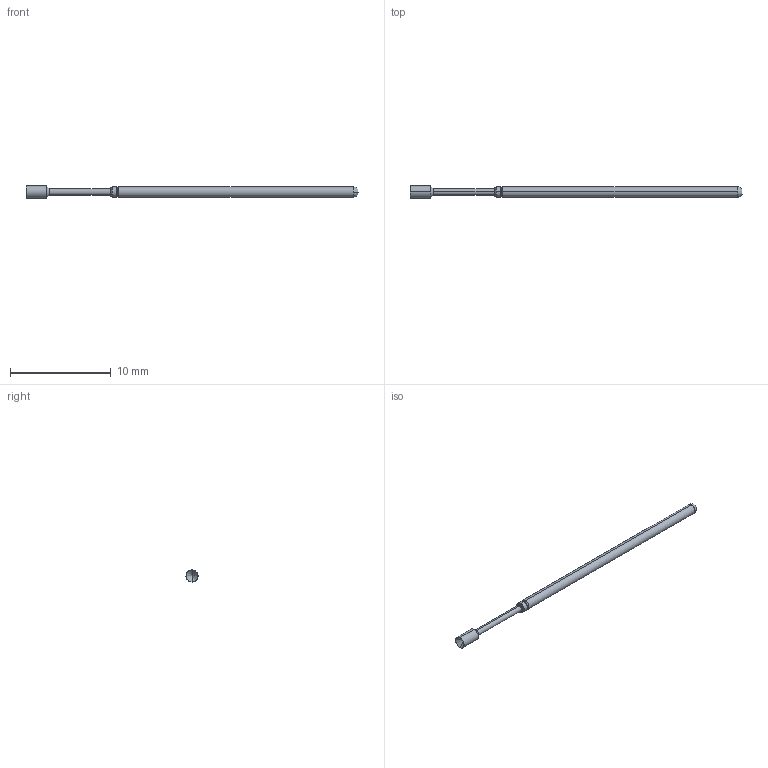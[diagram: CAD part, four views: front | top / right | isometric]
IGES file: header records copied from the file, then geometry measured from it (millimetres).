
Start section: SolidWorks IGES file using analytic representation for surfaces
Global section: file name: Z:\probe solid model mockups\Solidworks models\Parts\LFRE-1A.IGS; native system: SolidWorks 2016; preprocessor: SolidWorks 2016; author: mlee; date: 180927.162247; units: inch
Bounding box: 33.02 x 1.19 x 1.19 mm (x, y, z)
Surface area: 101.2 mm2 (no closed solid volume)
Topology: 0 solids, 0 shells, 24 faces, 140 edges, 138 vertices
Faces by surface type: revolution 18, bspline 6
